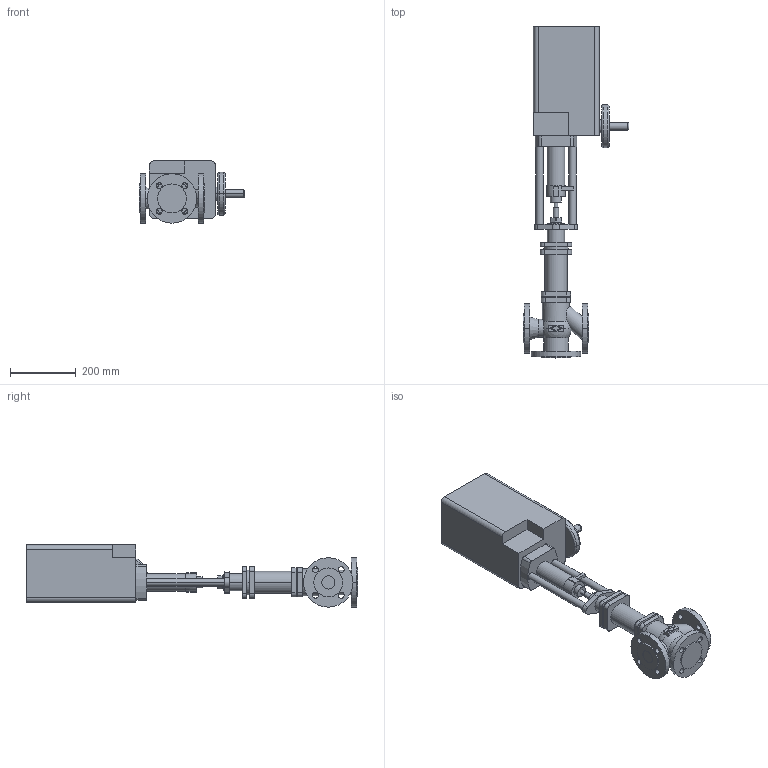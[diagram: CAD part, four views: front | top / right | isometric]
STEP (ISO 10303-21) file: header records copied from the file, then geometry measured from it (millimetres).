
FILE_DESCRIPTION(('OneSpaceDesigner STEP Export'),'2;1');
FILE_NAME('c000002454.stp','2006-09-21T11:52:02',(''),(''),'OneSpace Designer STEP processor for AP214 (Solid Model)','OneSpace Designer 13.20A 18-Aug-2005 (C) CoCreate Software GmbH','');
FILE_SCHEMA(('AUTOMOTIVE_DESIGN { 1 0 10303 214 1 1 1 1 }'));
Length unit declared in the file: millimetre
Products named in the file (2): 1; 2
Bounding box: 321.6 x 1008 x 189 mm (x, y, z)
Volume: 15671493.3 mm3; surface area: 713168 mm2
Topology: 2 solids, 2 shells, 238 faces, 587 edges, 388 vertices
Faces by surface type: cylinder 116, plane 110, torus 6, sphere 4, cone 2
Entity records: 6752 total; most frequent: CARTESIAN_POINT 1323, ORIENTED_EDGE 1174, DIRECTION 1045, EDGE_CURVE 587, VERTEX_POINT 388, AXIS2_PLACEMENT_3D 371, VECTOR 303, LINE 303
